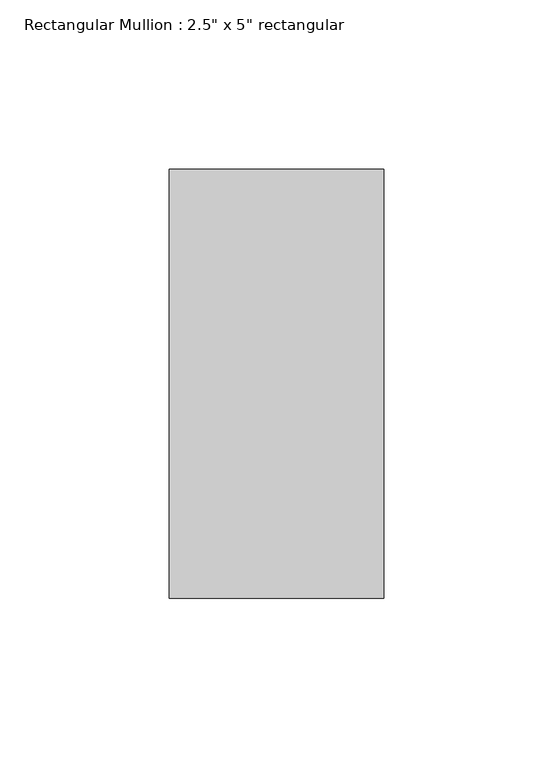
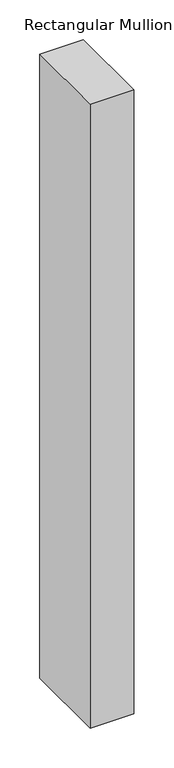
"""IFC4 building model written with IfcOpenShell, lengths in millimetres: member geometry."""

from ifc_helpers import new_model, si_unit, frame, origin, place, context, project, spatial, polyline, outline, extrude, source, transform, mapped, element, save


def member_63d49946(model_context):
    return source(origin(), model_context, "Body", "SweptSolid", [
        extrude(outline(polyline([(31.75, 63.5), (31.75, -63.5), (-31.75, -63.5), (-31.75, 63.5), (31.75, 63.5)])), frame((0.0, 0.0, -958.85), z_axis=(0.0, 0.0, 1.0), x_axis=(1.0, 0.0, 0.0)), (0.0, 0.0, 1.0), 958.85),
    ])


if __name__ == "__main__":
    model = new_model("IFC4")
    model_context = context("Model", 3, world=origin())
    ifc_project = project(units=[si_unit("LENGTHUNIT", "METRE", prefix="MILLI")], contexts=[model_context])
    site = spatial("IfcSite", under=ifc_project)
    building = spatial("IfcBuilding", under=site)
    placement = place(None, origin())
    member_shape = member_63d49946(model_context)
    element("IfcMember", 1, ObjectType="Rectangular Mullion : 2.5\" x 5\" rectangular", at=placement, inside=building, context=model_context, shape_type="MappedRepresentation", body=[
        mapped(member_shape, transform((0.0, 0.0, 0.0), x_axis=(1.0, 0.0, 0.0), y_axis=(0.0, 1.0, 0.0), z_axis=(0.0, 0.0, 1.0))),
    ])
    save(model, "model.ifc")
